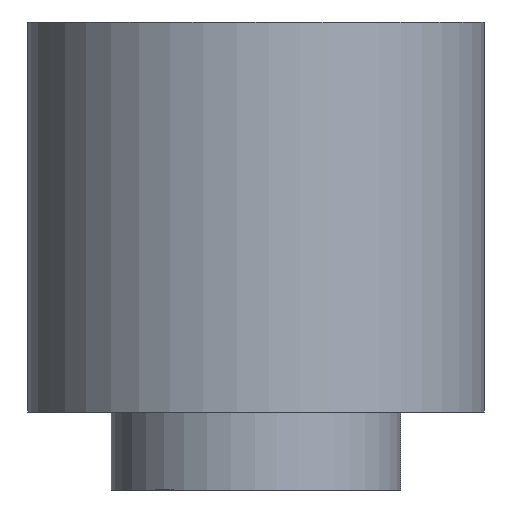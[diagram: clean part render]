
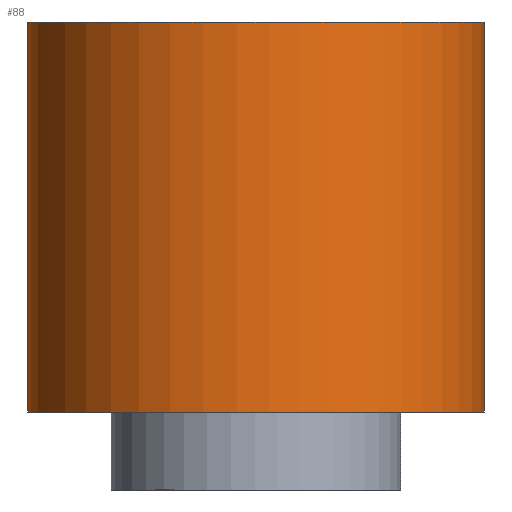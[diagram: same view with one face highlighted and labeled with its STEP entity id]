
A CAD part, front view. The second image highlights one B-rep face of the part: STEP entity #88.
In plain terms, the highlighted free-form (B-spline) face has degree [2, 1] with [7, 2] control points.
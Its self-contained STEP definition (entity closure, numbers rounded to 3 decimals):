
#69 = EDGE_CURVE('',#70,#70,#72,.T.);
#70 = VERTEX_POINT('',#71);
#71 = CARTESIAN_POINT('',(-4.1,0.,0.));
#72 = ( BOUNDED_CURVE() B_SPLINE_CURVE(2,(#73,#74,#75,#76,#77,#78,#79),
.UNSPECIFIED.,.T.,.F.) B_SPLINE_CURVE_WITH_KNOTS((1,2,2,2,2,1),(
    -2.094,0.,2.094,4.189,6.283,
8.378),.UNSPECIFIED.) CURVE() GEOMETRIC_REPRESENTATION_ITEM() 
RATIONAL_B_SPLINE_CURVE((1.,0.5,1.,0.5,1.,0.5,1.)) REPRESENTATION_ITEM(
  '') );
#73 = CARTESIAN_POINT('',(-4.1,0.,0.));
#74 = CARTESIAN_POINT('',(-4.1,7.101,0.));
#75 = CARTESIAN_POINT('',(2.05,3.551,0.));
#76 = CARTESIAN_POINT('',(8.2,0.,0.));
#77 = CARTESIAN_POINT('',(2.05,-3.551,0.));
#78 = CARTESIAN_POINT('',(-4.1,-7.101,0.));
#79 = CARTESIAN_POINT('',(-4.1,0.,0.));
#88 = ADVANCED_FACE('',(#89),#110,.T.);
#89 = FACE_BOUND('',#90,.T.);
#90 = EDGE_LOOP('',(#91,#103,#108,#109));
#91 = ORIENTED_EDGE('',*,*,#92,.T.);
#92 = EDGE_CURVE('',#93,#93,#95,.T.);
#93 = VERTEX_POINT('',#94);
#94 = CARTESIAN_POINT('',(-4.1,0.,7.));
#95 = ( BOUNDED_CURVE() B_SPLINE_CURVE(2,(#96,#97,#98,#99,#100,#101,#102
),.UNSPECIFIED.,.T.,.F.) B_SPLINE_CURVE_WITH_KNOTS((1,2,2,2,2,1),(
    -2.094,0.,2.094,4.189,6.283,
8.378),.UNSPECIFIED.) CURVE() GEOMETRIC_REPRESENTATION_ITEM() 
RATIONAL_B_SPLINE_CURVE((1.,0.5,1.,0.5,1.,0.5,1.)) REPRESENTATION_ITEM(
  '') );
#96 = CARTESIAN_POINT('',(-4.1,0.,7.));
#97 = CARTESIAN_POINT('',(-4.1,7.101,7.));
#98 = CARTESIAN_POINT('',(2.05,3.551,7.));
#99 = CARTESIAN_POINT('',(8.2,0.,7.));
#100 = CARTESIAN_POINT('',(2.05,-3.551,7.));
#101 = CARTESIAN_POINT('',(-4.1,-7.101,7.));
#102 = CARTESIAN_POINT('',(-4.1,0.,7.));
#103 = ORIENTED_EDGE('',*,*,#104,.F.);
#104 = EDGE_CURVE('',#70,#93,#105,.T.);
#105 = B_SPLINE_CURVE_WITH_KNOTS('',1,(#106,#107),.UNSPECIFIED.,.F.,.F.,
  (2,2),(0.,7.),.PIECEWISE_BEZIER_KNOTS.);
#106 = CARTESIAN_POINT('',(-4.1,0.,0.));
#107 = CARTESIAN_POINT('',(-4.1,0.,7.));
#108 = ORIENTED_EDGE('',*,*,#69,.F.);
#109 = ORIENTED_EDGE('',*,*,#104,.T.);
#110 = ( BOUNDED_SURFACE() B_SPLINE_SURFACE(2,1,(
    (#111,#112)
    ,(#113,#114)
    ,(#115,#116)
    ,(#117,#118)
    ,(#119,#120)
    ,(#121,#122)
,(#123,#124
    )),.UNSPECIFIED.,.T.,.F.,.F.) B_SPLINE_SURFACE_WITH_KNOTS((1,2,2,2,2
    ,1),(2,2),(-2.094,0.,2.094,4.189,
    6.283,8.378),(0.,7.),.UNSPECIFIED.) 
GEOMETRIC_REPRESENTATION_ITEM() RATIONAL_B_SPLINE_SURFACE((
    (1.,1.)
    ,(0.5,0.5)
    ,(1.,1.)
    ,(0.5,0.5)
    ,(1.,1.)
    ,(0.5,0.5)
,(1.,1.))) REPRESENTATION_ITEM('') SURFACE() );
#111 = CARTESIAN_POINT('',(-4.1,0.,0.));
#112 = CARTESIAN_POINT('',(-4.1,0.,7.));
#113 = CARTESIAN_POINT('',(-4.1,-7.101,0.));
#114 = CARTESIAN_POINT('',(-4.1,-7.101,7.));
#115 = CARTESIAN_POINT('',(2.05,-3.551,0.));
#116 = CARTESIAN_POINT('',(2.05,-3.551,7.));
#117 = CARTESIAN_POINT('',(8.2,0.,0.));
#118 = CARTESIAN_POINT('',(8.2,0.,7.));
#119 = CARTESIAN_POINT('',(2.05,3.551,0.));
#120 = CARTESIAN_POINT('',(2.05,3.551,7.));
#121 = CARTESIAN_POINT('',(-4.1,7.101,0.));
#122 = CARTESIAN_POINT('',(-4.1,7.101,7.));
#123 = CARTESIAN_POINT('',(-4.1,0.,0.));
#124 = CARTESIAN_POINT('',(-4.1,0.,7.));
